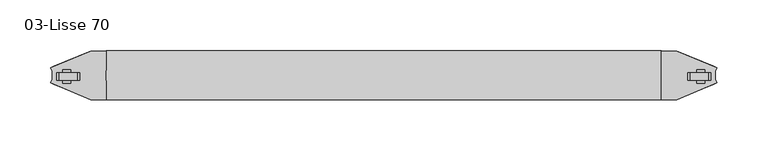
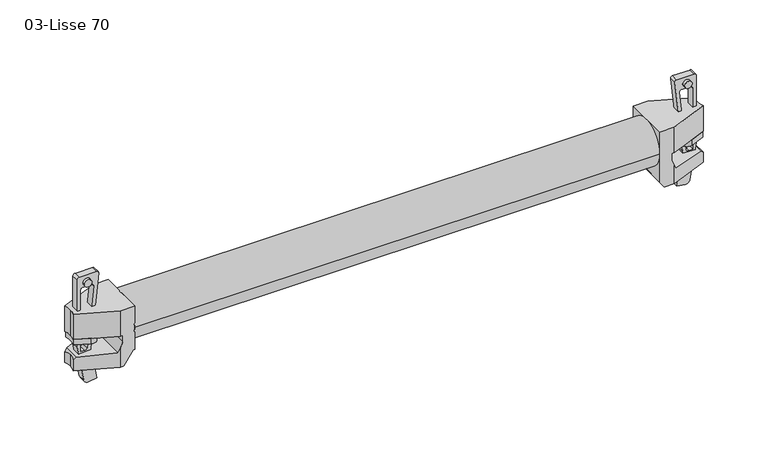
"""IFC4 building model written with IfcOpenShell, lengths in millimetres: proxy geometry, 03-Lisse 70 : JPA Lisse Galva."""

import ifcopenshell
import ifcopenshell.guid

model = None  # the IFC model being written
_history = None  # IfcOwnerHistory: only IFC2X3 demands one
_inside = {}  # id of a spatial element -> (the spatial element, [elements in it])
_under = {}  # id of a project, library or spatial element -> (it, [spatial elements below it])
_declared = {}  # id of a project -> (the project, [libraries it declares])
_typed = {}  # id of a type object -> (the type object, [elements of that type])
_made_of = {}  # id of a material, layer set ... -> (it, [elements and type objects made of it])


def new_model(schema):
    """Start an empty IFC model of exactly this schema.

    Asked for "IFC4X3", IfcOpenShell would pick the latest addendum, in which some entities
    have other attributes; the version numbers below select the first issue.
    IFC2X3 requires an IfcOwnerHistory on every rooted entity: one is made here for all.
    """
    global model, _history
    if schema == "IFC4X3":
        model = ifcopenshell.file(schema_version=(4, 3, 0, 0))
    else:
        model = ifcopenshell.file(schema=schema)
    _inside.clear()
    _under.clear()
    _declared.clear()
    _typed.clear()
    _made_of.clear()
    _history = None
    if model.schema == "IFC2X3":
        org = make("IfcOrganization", Name="unknown")
        user = make(
            "IfcPersonAndOrganization",
            ThePerson=make("IfcPerson", FamilyName="unknown"),
            TheOrganization=org,
        )
        app = make(
            "IfcApplication",
            ApplicationDeveloper=org,
            Version="unknown",
            ApplicationFullName="unknown",
            ApplicationIdentifier="unknown",
        )
        _history = make(
            "IfcOwnerHistory",
            OwningUser=user,
            OwningApplication=app,
            ChangeAction="ADDED",
            CreationDate=0,
        )
    return model


def make(cls, **values):
    """One entity of the class cls with the attributes given. An attribute that is None is left unset."""
    return model.create_entity(
        cls, **{name: value for name, value in values.items() if value is not None}
    )


def rooted(cls, **values):
    """An entity with a GlobalId (a new one), such as an element, a storey or a relation."""
    return make(cls, GlobalId=ifcopenshell.guid.new(), OwnerHistory=_history, **values)


def si_unit(unit_type, name, prefix=None):
    """IfcSIUnit, for example si_unit("LENGTHUNIT", "METRE", prefix="MILLI")."""
    return make("IfcSIUnit", UnitType=unit_type, Prefix=prefix, Name=name)


def assignment(units):
    """IfcUnitAssignment: the units of a project."""
    return None if units is None else make("IfcUnitAssignment", Units=units)


def point(xyz):
    """IfcCartesianPoint."""
    return None if xyz is None else make("IfcCartesianPoint", Coordinates=xyz)


def direction(xyz):
    """IfcDirection."""
    return None if xyz is None else make("IfcDirection", DirectionRatios=xyz)


def frame(location, z_axis=None, x_axis=None):
    """IfcAxis2Placement3D, a coordinate frame: its origin and axes. An axis left out is left unset."""
    return make(
        "IfcAxis2Placement3D",
        Location=point(location),
        Axis=direction(z_axis),
        RefDirection=direction(x_axis),
    )


def frame_2d(location, x_axis=None):
    """IfcAxis2Placement2D, a coordinate frame in the plane: its origin and x axis."""
    return make(
        "IfcAxis2Placement2D", Location=point(location), RefDirection=direction(x_axis)
    )


def origin():
    """The frame at (0, 0, 0) with its axes left unset."""
    return frame((0.0, 0.0, 0.0))


def place(relative_to, where):
    """IfcLocalPlacement: puts the frame where relative to a parent placement (None: the world)."""
    return make(
        "IfcLocalPlacement", PlacementRelTo=relative_to, RelativePlacement=where
    )


def context(
    kind, dimensions, precision=None, world=None, true_north=None, identifier=None
):
    """IfcGeometricRepresentationContext, for example the 3D "Model" context."""
    return make(
        "IfcGeometricRepresentationContext",
        ContextIdentifier=identifier,
        ContextType=kind,
        CoordinateSpaceDimension=dimensions,
        Precision=precision,
        WorldCoordinateSystem=world,
        TrueNorth=true_north,
    )


def project(units=None, contexts=None):
    """IfcProject with its units and contexts."""
    return rooted(
        "IfcProject",
        Name="project",
        RepresentationContexts=contexts,
        UnitsInContext=assignment(units),
    )


def spatial(cls, under=None, at=None, **own):
    """A site, building, storey or space (cls), placed at a placement, below another one or the project."""
    s = rooted(cls, ObjectPlacement=at, **own)
    if under is not None:
        _under.setdefault(under.id(), (under, []))[1].append(s)
    return s


def polyline(points):
    """IfcPolyline through the points."""
    return make("IfcPolyline", Points=[point(p) for p in points])


def circle_curve(where, radius):
    """IfcCircle in the frame where."""
    return make("IfcCircle", Position=where, Radius=radius)


def ellipse_curve(where, semi_axis1, semi_axis2):
    """IfcEllipse in the frame where."""
    return make(
        "IfcEllipse", Position=where, SemiAxis1=semi_axis1, SemiAxis2=semi_axis2
    )


def trimmed(basis, trim1, trim2, sense, master):
    """IfcTrimmedCurve: the piece of a basis curve between two trims."""
    return make(
        "IfcTrimmedCurve",
        BasisCurve=basis,
        Trim1=trim1,
        Trim2=trim2,
        SenseAgreement=sense,
        MasterRepresentation=master,
    )


def segment(curve, same_sense, transition):
    """IfcCompositeCurveSegment."""
    return make(
        "IfcCompositeCurveSegment",
        Transition=transition,
        SameSense=same_sense,
        ParentCurve=curve,
    )


def composite_curve(segments, self_intersect=None):
    """IfcCompositeCurve: segments joined end to end."""
    return make("IfcCompositeCurve", Segments=segments, SelfIntersect=self_intersect)


def outline(outer, holes=None, kind="AREA"):
    """IfcArbitraryClosedProfileDef: a profile drawn as a closed curve; with holes, ...WithVoids."""
    if holes is None:
        return make("IfcArbitraryClosedProfileDef", ProfileType=kind, OuterCurve=outer)
    return make(
        "IfcArbitraryProfileDefWithVoids",
        ProfileType=kind,
        OuterCurve=outer,
        InnerCurves=holes,
    )


def extrude(swept, where, along, depth):
    """IfcExtrudedAreaSolid: the profile swept, set in the frame where, extruded along a direction by depth."""
    return make(
        "IfcExtrudedAreaSolid",
        SweptArea=swept,
        Position=where,
        ExtrudedDirection=direction(along),
        Depth=depth,
    )


def shape(context_of_items, identifier, shape_type, items):
    """IfcShapeRepresentation: the items that make up one representation, for example the "Body"."""
    return make(
        "IfcShapeRepresentation",
        ContextOfItems=context_of_items,
        RepresentationIdentifier=identifier,
        RepresentationType=shape_type,
        Items=items,
    )


def source(mapping_origin, context_of_items, identifier, shape_type, items):
    """IfcRepresentationMap: a shape defined once, which mapped items show again and again."""
    return make(
        "IfcRepresentationMap",
        MappingOrigin=mapping_origin,
        MappedRepresentation=shape(context_of_items, identifier, shape_type, items),
    )


def transform(
    local_origin,
    x_axis=None,
    y_axis=None,
    z_axis=None,
    scale=None,
    scale2=None,
    scale3=None,
    uniform=True,
):
    """IfcCartesianTransformationOperator3D, or its non-uniform kind. x_axis, y_axis, z_axis: its Axis1, 2, 3."""
    if uniform:
        return make(
            "IfcCartesianTransformationOperator3D",
            Axis1=direction(x_axis),
            Axis2=direction(y_axis),
            LocalOrigin=point(local_origin),
            Scale=scale,
            Axis3=direction(z_axis),
        )
    return make(
        "IfcCartesianTransformationOperator3DnonUniform",
        Axis1=direction(x_axis),
        Axis2=direction(y_axis),
        LocalOrigin=point(local_origin),
        Scale=scale,
        Axis3=direction(z_axis),
        Scale2=scale2,
        Scale3=scale3,
    )


def mapped(mapping_source, mapping_target):
    """IfcMappedItem: shows the shape of a source again, moved by a transform."""
    return make(
        "IfcMappedItem", MappingSource=mapping_source, MappingTarget=mapping_target
    )


def made_of(thing, what):
    """Note that an element or type object is made of a material, layer set ...; save() writes the relation."""
    if what is not None:
        _made_of.setdefault(what.id(), (what, []))[1].append(thing)
    return thing


def element(
    cls,
    number,
    at=None,
    inside=None,
    cuts=None,
    type_object=None,
    material=None,
    context=None,
    identifier="Body",
    shape_type=None,
    held_by="IfcProductDefinitionShape",
    body=None,
    shapes=None,
    **own,
):
    """One element of the class cls, such as IfcWall. Its Tag is "e" and its number.

    at: its placement. inside: the storey or other place that contains it. cuts: it is an
    opening in that element (IfcRelVoidsElement). A single representation is given by context,
    identifier, shape_type and body (its items); several are given by shapes. held_by: the class
    of the entity that holds the representations. save() writes the other relations.
    """
    e = rooted(cls, Tag="e%d" % number, ObjectPlacement=at, **own)
    if body is not None:
        shapes = [shape(context, identifier, shape_type, body)]
    if shapes is not None:
        e.Representation = make(held_by, Representations=shapes)
    if inside is not None:
        _inside.setdefault(inside.id(), (inside, []))[1].append(e)
    if cuts is not None:
        rooted(
            "IfcRelVoidsElement", RelatingBuildingElement=cuts, RelatedOpeningElement=e
        )
    if type_object is not None:
        _typed.setdefault(type_object.id(), (type_object, []))[1].append(e)
    return made_of(e, material)


def aggregate(whole, parts):
    """IfcRelAggregates: a whole, such as a stair, and the parts it consists of."""
    return rooted("IfcRelAggregates", RelatingObject=whole, RelatedObjects=parts)


def save(model, path):
    """Write the relations noted so far, then the file.

    IfcRelAggregates (storeys below a building ...), IfcRelContainedInSpatialStructure (elements
    in a storey), IfcRelDefinesByType, IfcRelAssociatesMaterial and IfcRelDeclares: one each for
    every whole, place, type object, material and project.
    """
    for whole, parts in _under.values():
        aggregate(whole, parts)
    for where, things in _inside.values():
        rooted(
            "IfcRelContainedInSpatialStructure",
            RelatedElements=things,
            RelatingStructure=where,
        )
    for kind, things in _typed.values():
        rooted("IfcRelDefinesByType", RelatedObjects=things, RelatingType=kind)
    for what, things in _made_of.values():
        rooted("IfcRelAssociatesMaterial", RelatedObjects=things, RelatingMaterial=what)
    for by, libraries in _declared.values():
        rooted("IfcRelDeclares", RelatingContext=by, RelatedDefinitions=libraries)
    model.write(path)


def plane_surface(at):
    """IfcPlane: the flat surface through the origin of the frame at, square to its z axis."""
    return make("IfcPlane", Position=at)


def revolved_surface(curve, axis_point, axis_direction):
    """IfcSurfaceOfRevolution: the curve turned about the line through axis_point along axis_direction."""
    return make(
        "IfcSurfaceOfRevolution",
        SweptCurve=make("IfcArbitraryOpenProfileDef", ProfileType="CURVE", Curve=curve),
        AxisPosition=make("IfcAxis1Placement", Location=point(axis_point), Axis=direction(axis_direction)),
    )


def advanced_brep(points, edges, surfaces, faces):
    """IfcAdvancedBrep: a solid bounded by faces that lie on surfaces and meet in shared edges.

    An edge is (start, end): straight between two places in points (the first is 0);
    or (start, end, curve); or (start, end, curve, False) where it runs against its curve.
    A face is (place in surfaces, loops), or (place, loops, False) where it looks against
    its surface's normal. A loop lists edges by number (the first is 1), with a minus sign
    where the edge is run from its end to its start. The first loop is the outer one.
    """
    corners = [point(p) for p in points]
    vertices = [make("IfcVertexPoint", VertexGeometry=c) for c in corners]
    made = []
    for start, end, *more in edges:
        made.append(
            make(
                "IfcEdgeCurve",
                EdgeStart=vertices[start],
                EdgeEnd=vertices[end],
                EdgeGeometry=more[0] if more else make("IfcPolyline", Points=[corners[start], corners[end]]),
                SameSense=more[1] if len(more) > 1 else True,
            )
        )
    hull = []
    for where, loops, *sense in faces:
        bounds = []
        for j, loop in enumerate(loops):
            ring = [make("IfcOrientedEdge", EdgeElement=made[abs(k) - 1], Orientation=k > 0) for k in loop]
            bounds.append(
                make(
                    "IfcFaceOuterBound" if j == 0 else "IfcFaceBound",
                    Bound=make("IfcEdgeLoop", EdgeList=ring),
                    Orientation=True,
                )
            )
        hull.append(make("IfcAdvancedFace", Bounds=bounds, FaceSurface=surfaces[where], SameSense=sense[0] if sense else True))
    return make("IfcAdvancedBrep", Outer=make("IfcClosedShell", CfsFaces=hull))


def proxy_03_lisse_70_0da8a22d(model_context):
    return source(origin(), model_context, "Body", "SolidModel", [
        extrude(outline(composite_curve([segment(polyline([(676.4983474, -7.5675811), (662.0618616, -13.548703)]), True, "CONTINUOUS"), segment(trimmed(circle_curve(frame_2d((659.7603834, -8.0028606)), 6.0044293), [point((662.0618616, -13.548703))], [point((653.8691569, -9.163301))], False, "CARTESIAN"), True, "CONTINUOUS"), segment(trimmed(circle_curve(frame_2d((699.3720464, -0.200245)), 46.3772501), [point((653.8691569, -9.163301))], [point((653.2356282, -4.92044))], False, "CARTESIAN"), True, "CONTINUOUS"), segment(polyline([(653.2356282, -4.92044), (656.1589194, -4.92044), (660.0141949, -4.92044), (667.5604701, -4.92044), (671.4004701, -4.92044), (671.4004701, 2.57956), (667.5604701, 2.57956), (660.0141949, 2.57956), (656.1589194, 2.57956), (653.0781806, 2.57956)]), True, "CONTINUOUS"), segment(trimmed(circle_curve(frame_2d((699.3720464, -0.200245)), 46.3772501), [point((653.0781806, 2.57956))], [point((653.8691569, 8.762811))], False, "CARTESIAN"), True, "CONTINUOUS"), segment(trimmed(circle_curve(frame_2d((659.7627179, 7.6019107)), 6.0068087), [point((653.8691569, 8.762811))], [point((662.0618616, 13.151297))], False, "CARTESIAN"), True, "CONTINUOUS"), segment(polyline([(662.0618616, 13.151297), (676.4992197, 7.1698137)]), True, "CONTINUOUS"), segment(trimmed(circle_curve(frame_2d((699.4971486, -0.200245)), 24.15), [point((676.4992197, 7.1698137))], [point((676.4983474, -7.5675811))], True, "CARTESIAN"), True, "CONTINUOUS")], self_intersect=False)), frame((0.0, 0.0, -40.1039294), z_axis=(0.0, 0.0, 1.0), x_axis=(1.0, 0.0, 0.0)), (0.0, 0.0, 1.0), 6.0),
        extrude(outline(composite_curve([segment(trimmed(circle_curve(frame_2d((699.4971486, -0.200245)), 24.15), [point((676.4992197, 7.1698137))], [point((676.4983474, -7.5675811))], True, "CARTESIAN"), True, "CONTINUOUS"), segment(polyline([(676.4983474, -7.5675811), (672.0680073, -9.4030973), (672.0680073, 9.0056913), (676.4992197, 7.1698137)]), True, "CONTINUOUS")], self_intersect=False)), frame((0.0, 0.0, -40.1039294), z_axis=(0.0, 0.0, 1.0), x_axis=(1.0, 0.0, 0.0)), (0.0, 0.0, 1.0), 6.0),
        extrude(outline(composite_curve([segment(trimmed(circle_curve(frame_2d((0.5020711, -0.200245)), 24.15), [point((23.5008723, -7.5675811))], [point((23.5, 7.1698137))], True, "CARTESIAN"), True, "CONTINUOUS"), segment(polyline([(23.5, 7.1698137), (37.9373581, 13.151297)]), True, "CONTINUOUS"), segment(trimmed(circle_curve(frame_2d((40.2365018, 7.6019107)), 6.0068087), [point((37.9373581, 13.151297))], [point((46.1300628, 8.762811))], False, "CARTESIAN"), True, "CONTINUOUS"), segment(trimmed(circle_curve(frame_2d((0.6271733, -0.200245)), 46.3772501), [point((46.1300628, 8.762811))], [point((46.9210391, 2.57956))], False, "CARTESIAN"), True, "CONTINUOUS"), segment(polyline([(46.9210391, 2.57956), (43.8403003, 2.57956), (39.9850248, 2.57956), (32.4387496, 2.57956), (28.5987496, 2.57956), (28.5987496, -4.92044), (32.4387496, -4.92044), (39.9850248, -4.92044), (43.8403003, -4.92044), (46.7635915, -4.92044)]), True, "CONTINUOUS"), segment(trimmed(circle_curve(frame_2d((0.6271733, -0.200245)), 46.3772501), [point((46.7635915, -4.92044))], [point((46.1300628, -9.163301))], False, "CARTESIAN"), True, "CONTINUOUS"), segment(trimmed(circle_curve(frame_2d((40.2388364, -8.0028606)), 6.0044293), [point((46.1300628, -9.163301))], [point((37.9373581, -13.548703))], False, "CARTESIAN"), True, "CONTINUOUS"), segment(polyline([(37.9373581, -13.548703), (23.5008723, -7.5675811)]), True, "CONTINUOUS")], self_intersect=False)), frame((0.0, 0.0, -40.1039294), z_axis=(0.0, 0.0, 1.0), x_axis=(1.0, 0.0, 0.0)), (0.0, 0.0, 1.0), 6.0),
        extrude(outline(composite_curve([segment(trimmed(circle_curve(frame_2d((27.8953091, 30.7594271)), 2.1606775), [point((30.0559866, 30.7594271))], [point((27.8953091, 28.5987496))], False, "CARTESIAN"), True, "CONTINUOUS"), segment(polyline([(27.8953091, 28.5987496), (-45.9588727, 28.5987496), (-84.0602229, 35.3170456)]), True, "CONTINUOUS"), segment(trimmed(circle_curve(frame_2d((-83.2111425, 40.1324197)), 4.889659), [point((-84.0602229, 35.3170456))], [point((-88.1008015, 40.1324197))], False, "CARTESIAN"), True, "CONTINUOUS"), segment(polyline([(-88.1008015, 40.1324197), (-86.5617303, 48.860926), (-51.3520566, 42.6525106), (27.7368379, 50.9650884)]), True, "CONTINUOUS"), segment(trimmed(circle_curve(frame_2d((27.9586511, 48.8546768)), 2.1220363), [point((27.7368379, 50.9650884))], [point((30.0559866, 49.1775107))], False, "CARTESIAN"), True, "CONTINUOUS"), segment(polyline([(30.0559866, 49.1775107), (30.0559866, 30.7594271)]), True, "CONTINUOUS")], self_intersect=False), holes=[composite_curve([segment(trimmed(circle_curve(frame_2d((15.3935931, 34.6011136)), 2.162364), [point((15.3935931, 32.4387496))], [point((17.5559571, 34.6011136))], True, "CARTESIAN"), True, "CONTINUOUS"), segment(polyline([(17.5559571, 34.6011136), (17.5559571, 43.6409656)]), True, "CONTINUOUS"), segment(trimmed(circle_curve(frame_2d((15.3851783, 43.6409656)), 2.1707788), [point((17.5559571, 43.6409656))], [point((15.3851783, 45.8117443))], True, "CARTESIAN"), True, "CONTINUOUS"), segment(polyline([(15.3851783, 45.8117443), (-50.2786063, 38.9102025)]), True, "CONTINUOUS"), segment(trimmed(circle_curve(frame_2d((-49.0143511, 36.4289619)), 2.7847613), [point((-50.2786063, 38.9102025))], [point((-51.795296, 36.2832188))], True, "CARTESIAN"), True, "CONTINUOUS"), segment(polyline([(-51.795296, 36.2832188), (-51.5938159, 32.4387496), (15.3935931, 32.4387496)]), True, "CONTINUOUS")], self_intersect=False), composite_curve([segment(trimmed(circle_curve(frame_2d((22.709669, 38.4492461)), 3.8584192), [point((22.709669, 34.5908269))], [point((22.709669, 42.3076652))], True, "CARTESIAN"), True, "CONTINUOUS"), segment(trimmed(circle_curve(frame_2d((22.709669, 38.4492461)), 3.8584192), [point((22.709669, 42.3076652))], [point((22.709669, 34.5908269))], True, "CARTESIAN"), True, "CONTINUOUS")], self_intersect=False)]), frame((0.0, -4.92044, 0.0), z_axis=(0.0, 1.0, 0.0), x_axis=(0.0, 0.0, 1.0)), (0.0, 0.0, 1.0), 7.5),
        advanced_brep(
        [(637.8196195, 23.8029452, -6.1039294), (622.6383474, 23.8029452, -6.1039294), (622.6383474, -23.8029452, -6.1039294), (637.8196195, -23.8029452, -6.1039294), (677.1084401, -7.5511063, -6.1039294), (675.6708295, 0.0, -6.1039294), (677.1084401, 7.5511063, -6.1039294), (637.8196195, 23.8029452, -68.1039294), (677.1084401, 7.5511063, -68.1039294), (675.6708295, 0.0, -68.1039294), (677.1084401, -7.5511063, -68.1039294), (637.8196195, -23.8029452, -68.1039294), (627.4512529, -23.8029452, -68.1039294), (627.4512529, 23.8029452, -68.1039294), (677.1084401, 7.5511063, -34.1039294), (637.8196195, 23.8029452, -34.1039294), (637.8196195, 23.8029452, -47.8537512), (639.5073942, 23.1047964, -52.1184527), (674.33828, 8.6969843, -53.943862), (677.1084401, 7.5511063, -56.7140221), (675.6708295, 0.0, -34.1039294), (675.6708295, 0.0, -55.2764116), (677.1084401, -7.5511063, -34.1039294), (677.1084401, -7.5511063, -56.7140221), (637.8196195, -23.8029452, -34.1039294), (674.33828, -8.6969843, -53.943862), (639.5073942, -23.1047964, -52.1184527), (637.8196195, -23.8029452, -47.8537512), (622.6383474, -23.8029452, -61.230388), (635.1459218, -23.8029452, -41.0978005), (635.1459218, -23.8029452, -34.1039294), (622.6383474, 23.8029452, -61.230388), (635.1459218, 23.8029452, -34.1039294), (635.1459218, 23.8029452, -41.0978005)],
        [
            (0, 1),
            (1, 2),
            (2, 3),
            (3, 4),
            (4, 5, circle_curve(frame((695.481966, -0.1406769, -6.1039294), z_axis=(0.0, 0.0, -1.0), x_axis=(-1.0, 0.0, 0.0)), 19.8116359)),
            (5, 6, circle_curve(frame((695.481966, 0.1406769, -6.1039294), z_axis=(0.0, 0.0, -1.0), x_axis=(-1.0, 0.0, 0.0)), 19.8116359)),
            (6, 0),
            (7, 8),
            (8, 9, circle_curve(frame((695.481966, 0.1406769, -68.1039294), z_axis=(0.0, 0.0, 1.0), x_axis=(-1.0, 0.0, 0.0)), 19.8116359)),
            (9, 10, circle_curve(frame((695.481966, -0.1406769, -68.1039294), z_axis=(0.0, 0.0, 1.0), x_axis=(-1.0, 0.0, 0.0)), 19.8116359)),
            (10, 11),
            (11, 12),
            (12, 13),
            (13, 7),
            (6, 14),
            (14, 15),
            (15, 0),
            (7, 16),
            (16, 17),
            (17, 18),
            (18, 19),
            (19, 8),
            (5, 20),
            (20, 14, circle_curve(frame((695.481966, 0.1406769, -34.1039294), z_axis=(0.0, 0.0, -1.0), x_axis=(-1.0, 0.0, 0.0)), 19.8116359)),
            (19, 21, ellipse_curve(frame((695.481966, 0.1406769, -75.087548), z_axis=(0.7071067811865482, 0.0, 0.7071067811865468), x_axis=(0.7071067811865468, 0.0, -0.7071067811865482)), 28.0178842, 19.8116359)),
            (21, 9),
            (4, 22),
            (22, 20, circle_curve(frame((695.481966, -0.1406769, -34.1039294), z_axis=(0.0, 0.0, -1.0), x_axis=(-1.0, 0.0, 0.0)), 19.8116359)),
            (21, 23, ellipse_curve(frame((695.481966, -0.1406769, -75.087548), z_axis=(0.7071067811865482, 0.0, 0.7071067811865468), x_axis=(0.7071067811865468, 0.0, -0.7071067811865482)), 28.0178842, 19.8116359)),
            (23, 10),
            (3, 24),
            (24, 22),
            (23, 25),
            (25, 26),
            (26, 27),
            (27, 11),
            (2, 28),
            (28, 12),
            (27, 29),
            (29, 30),
            (30, 24),
            (1, 31),
            (31, 28),
            (15, 32),
            (32, 33),
            (33, 16),
            (13, 31),
            (32, 30),
            (29, 33),
            (26, 17),
            (25, 18),
        ],
        [
            plane_surface(frame((622.6383474, 23.8029452, -6.1039294), z_axis=(0.0, 0.0, 1.0), x_axis=(-1.0, 0.0, 0.0))),
            plane_surface(frame((622.6383474, 23.8029452, -68.1039294), z_axis=(0.0, 0.0, -1.0), x_axis=(1.0, 0.0, 0.0))),
            plane_surface(frame((677.1084401, 7.5511063, -6.1039294), z_axis=(0.38223925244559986, 0.924063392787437, 0.0), x_axis=(0.0, 0.0, -1.0))),
            revolved_surface(polyline([(675.6703301, 0.1406769, -34.1039294), (675.6703301, 0.1406769, -6.103929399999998)]), (695.481966, 0.1406769, -68.1039294), (0.0, 0.0, -1.0)),
            revolved_surface(polyline([(675.6703301, 0.1406769, -94.89918391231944), (675.6703301, 0.1406769, -55.27591208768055)]), (695.481966, 0.1406769, -68.1039294), (0.0, 0.0, -1.0)),
            revolved_surface(polyline([(675.6703301, -0.1406769, -34.1039294), (675.6703301, -0.1406769, -6.103929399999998)]), (695.481966, -0.1406769, -68.1039294), (0.0, 0.0, -1.0)),
            revolved_surface(polyline([(675.6703301, -0.1406769, -94.89918391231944), (675.6703301, -0.1406769, -55.27591208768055)]), (695.481966, -0.1406769, -68.1039294), (0.0, 0.0, -1.0)),
            plane_surface(frame((637.8196195, -23.8029452, -6.1039294), z_axis=(0.3822392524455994, -0.9240633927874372, 0.0), x_axis=(0.0, 0.0, -1.0))),
            plane_surface(frame((622.6383474, -23.8029452, -6.1039294), z_axis=(0.0, -1.0, 0.0), x_axis=(0.0, 0.0, -1.0))),
            plane_surface(frame((622.6383474, 23.8029452, -6.1039294), z_axis=(-1.0, 0.0, 0.0), x_axis=(0.0, 0.0, -1.0))),
            plane_surface(frame((637.8196195, 23.8029452, -6.1039294), z_axis=(0.0, 1.0, 0.0), x_axis=(0.0, 0.0, -1.0))),
            plane_surface(frame((629.1198761, -49.3768281, -70.4869703), z_axis=(-0.8191520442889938, 0.0, -0.5735764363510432), x_axis=(0.0, 1.0, 0.0))),
            plane_surface(frame((635.1459218, -49.3768281, -34.1039294), z_axis=(1.0, 0.0, 0.0), x_axis=(0.0, 1.0, 0.0))),
            plane_surface(frame((635.1459218, -49.3768281, -41.0978005), z_axis=(0.9298317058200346, 0.0, 0.3679850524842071), x_axis=(0.0, 1.0, 0.0))),
            plane_surface(frame((639.5073942, -49.3768281, -52.1184527), z_axis=(0.05233595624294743, 0.0, 0.9986295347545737), x_axis=(0.0, 1.0, 0.0))),
            plane_surface(frame((674.33828, -49.3768281, -53.943862), z_axis=(0.7071067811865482, 0.0, 0.7071067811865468), x_axis=(0.0, 1.0, 0.0))),
            plane_surface(frame((678.5680073, -49.3768281, -34.1039294), z_axis=(0.0, 0.0, -1.0), x_axis=(0.0, 1.0, 0.0))),
        ],
        [
            (0, [[1, 2, 3, 4, 5, 6, 7]]),
            (1, [[8, 9, 10, 11, 12, 13, 14]]),
            (2, [[-7, 15, 16, 17]]),
            (2, [[-8, 18, 19, 20, 21, 22]]),
            (3, [[-6, 23, 24, -15]]),
            (4, [[-9, -22, 25, 26]]),
            (5, [[-5, 27, 28, -23]]),
            (6, [[-10, -26, 29, 30]]),
            (7, [[-4, 31, 32, -27]]),
            (7, [[-11, -30, 33, 34, 35, 36]]),
            (8, [[-3, 37, 38, -12, -36, 39, 40, 41, -31]]),
            (9, [[-2, 42, 43, -37]]),
            (10, [[-1, -17, 44, 45, 46, -18, -14, 47, -42]]),
            (11, [[-13, -38, -43, -47]]),
            (12, [[48, -40, 49, -45]]),
            (13, [[-49, -39, -35, 50, -19, -46]]),
            (14, [[-50, -34, 51, -20]]),
            (15, [[-51, -33, -29, -25, -21]]),
            (16, [[-48, -44, -16, -24, -28, -32, -41]]),
        ],
    ),
        extrude(outline(composite_curve([segment(trimmed(circle_curve(frame_2d((22.709669, 661.5499737)), 3.8584192), [point((22.709669, 657.6915545))], [point((22.709669, 665.4083928))], False, "CARTESIAN"), True, "CONTINUOUS"), segment(trimmed(circle_curve(frame_2d((22.709669, 661.5499737)), 3.8584192), [point((22.709669, 665.4083928))], [point((22.709669, 657.6915545))], False, "CARTESIAN"), True, "CONTINUOUS")], self_intersect=False)), frame((0.0, -7.92044, 0.0), z_axis=(0.0, 1.0, 0.0), x_axis=(0.0, 0.0, 1.0)), (0.0, 0.0, 1.0), 13.5),
        extrude(outline(composite_curve([segment(polyline([(29.9424367, 669.2198298), (29.9424367, 650.8017462)]), True, "CONTINUOUS"), segment(trimmed(circle_curve(frame_2d((27.8451011, 651.1245801)), 2.1220363), [point((29.9424367, 650.8017462))], [point((27.6232879, 649.0141685))], False, "CARTESIAN"), True, "CONTINUOUS"), segment(polyline([(27.6232879, 649.0141685), (-51.4656066, 657.3267463), (-86.6752802, 651.1183308), (-88.2143514, 659.8468372)]), True, "CONTINUOUS"), segment(trimmed(circle_curve(frame_2d((-83.3246924, 659.8468372)), 4.889659), [point((-88.2143514, 659.8468372))], [point((-84.1737728, 664.6622113))], False, "CARTESIAN"), True, "CONTINUOUS"), segment(polyline([(-84.1737728, 664.6622113), (-46.0724226, 671.3805073), (27.7817592, 671.3805073)]), True, "CONTINUOUS"), segment(trimmed(circle_curve(frame_2d((27.7817592, 669.2198298)), 2.1606775), [point((27.7817592, 671.3805073))], [point((29.9424367, 669.2198298))], False, "CARTESIAN"), True, "CONTINUOUS")], self_intersect=False), holes=[composite_curve([segment(polyline([(15.2800431, 667.5405073), (-51.7073659, 667.5405073), (-51.908846, 663.6960381)]), True, "CONTINUOUS"), segment(trimmed(circle_curve(frame_2d((-49.1279011, 663.550295)), 2.7847613), [point((-51.908846, 663.6960381))], [point((-50.3921562, 661.0690544))], True, "CARTESIAN"), True, "CONTINUOUS"), segment(polyline([(-50.3921562, 661.0690544), (15.2716284, 654.1675126)]), True, "CONTINUOUS"), segment(trimmed(circle_curve(frame_2d((15.2716284, 656.3382913)), 2.1707788), [point((15.2716284, 654.1675126))], [point((17.4424071, 656.3382913))], True, "CARTESIAN"), True, "CONTINUOUS"), segment(polyline([(17.4424071, 656.3382913), (17.4424071, 665.3781433)]), True, "CONTINUOUS"), segment(trimmed(circle_curve(frame_2d((15.2800431, 665.3781433)), 2.162364), [point((17.4424071, 665.3781433))], [point((15.2800431, 667.5405073))], True, "CARTESIAN"), True, "CONTINUOUS")], self_intersect=False), composite_curve([segment(trimmed(circle_curve(frame_2d((22.5961191, 661.5300108)), 3.8584192), [point((22.5961191, 665.38843))], [point((22.5961191, 657.6715917))], True, "CARTESIAN"), True, "CONTINUOUS"), segment(trimmed(circle_curve(frame_2d((22.5961191, 661.5300108)), 3.8584192), [point((22.5961191, 657.6715917))], [point((22.5961191, 665.38843))], True, "CARTESIAN"), True, "CONTINUOUS")], self_intersect=False)]), frame((0.0, -4.92044, 0.0), z_axis=(0.0, 1.0, 0.0), x_axis=(0.0, 0.0, 1.0)), (0.0, 0.0, 1.0), 7.5),
        extrude(outline(composite_curve([segment(trimmed(circle_curve(frame_2d((0.0, -29.9068746)), 23.9423125), [point((-23.9423125, -29.9068746))], [point((23.9423125, -29.9068746))], False, "CARTESIAN"), True, "CONTINUOUS"), segment(trimmed(circle_curve(frame_2d((0.0, -29.9068746)), 23.9423125), [point((23.9423125, -29.9068746))], [point((-23.9423125, -29.9068746))], False, "CARTESIAN"), True, "CONTINUOUS")], self_intersect=False)), frame((77.3608723, 0.0, 0.0), z_axis=(1.0, 0.0, 0.0), x_axis=(0.0, 1.0, 0.0)), (0.0, 0.0, 1.0), 545.2774751),
        extrude(outline(composite_curve([segment(trimmed(circle_curve(frame_2d((22.709669, 38.4492461)), 3.8584192), [point((22.709669, 42.3076652))], [point((22.709669, 34.5908269))], False, "CARTESIAN"), True, "CONTINUOUS"), segment(trimmed(circle_curve(frame_2d((22.709669, 38.4492461)), 3.8584192), [point((22.709669, 34.5908269))], [point((22.709669, 42.3076652))], False, "CARTESIAN"), True, "CONTINUOUS")], self_intersect=False)), frame((0.0, -7.92044, 0.0), z_axis=(0.0, 1.0, 0.0), x_axis=(0.0, 0.0, 1.0)), (0.0, 0.0, 1.0), 13.5),
        advanced_brep(
        [(62.1796002, 23.8029452, -6.1039294), (22.8907796, 7.5511063, -6.1039294), (24.3283902, 0.0, -6.1039294), (22.8907796, -7.5511063, -6.1039294), (62.1796002, -23.8029452, -6.1039294), (77.3608723, -23.8029452, -6.1039294), (77.3608723, 23.8029452, -6.1039294), (62.1796002, -23.8029452, -68.1039294), (22.8907796, -7.5511063, -68.1039294), (24.3283902, 0.0, -68.1039294), (22.8907796, 7.5511063, -68.1039294), (62.1796002, 23.8029452, -68.1039294), (66.0479668, 23.8029452, -68.1039294), (66.0479668, -23.8029452, -68.1039294), (62.1796002, 23.8029452, -34.1039294), (22.8907796, 7.5511063, -34.1039294), (22.8907796, 7.5511063, -56.7140221), (25.6609397, 8.6969843, -53.943862), (60.4918255, 23.1047964, -52.1184527), (62.1796002, 23.8029452, -47.8537512), (24.3283902, 0.0, -34.1039294), (24.3283902, 0.0, -55.2764116), (22.8907796, -7.5511063, -34.1039294), (22.8907796, -7.5511063, -56.7140221), (62.1796002, -23.8029452, -34.1039294), (62.1796002, -23.8029452, -47.8537512), (60.4918255, -23.1047964, -52.1184527), (25.6609397, -8.6969843, -53.943862), (64.8532979, -23.8029452, -34.1039294), (64.8532979, -23.8029452, -41.0978005), (75.8656815, -23.8029452, -54.0827798), (77.3608723, -23.8029452, -54.0827798), (77.3608723, 23.8029452, -54.0827798), (75.8656815, 23.8029452, -54.0827798), (64.8532979, 23.8029452, -41.0978005), (64.8532979, 23.8029452, -34.1039294)],
        [
            (0, 1),
            (1, 2, circle_curve(frame((4.5172537, 0.1406769, -6.1039294), z_axis=(0.0, 0.0, -1.0), x_axis=(1.0, 0.0, 0.0)), 19.8116359)),
            (2, 3, circle_curve(frame((4.5172537, -0.1406769, -6.1039294), z_axis=(0.0, 0.0, -1.0), x_axis=(1.0, 0.0, 0.0)), 19.8116359)),
            (3, 4),
            (4, 5),
            (5, 6),
            (6, 0),
            (7, 8),
            (8, 9, circle_curve(frame((4.5172537, -0.1406769, -68.1039294), z_axis=(0.0, 0.0, 1.0), x_axis=(1.0, 0.0, 0.0)), 19.8116359)),
            (9, 10, circle_curve(frame((4.5172537, 0.1406769, -68.1039294), z_axis=(0.0, 0.0, 1.0), x_axis=(1.0, 0.0, 0.0)), 19.8116359)),
            (10, 11),
            (11, 12),
            (12, 13),
            (13, 7),
            (0, 14),
            (14, 15),
            (15, 1),
            (10, 16),
            (16, 17),
            (17, 18),
            (18, 19),
            (19, 11),
            (15, 20, circle_curve(frame((4.5172537, 0.1406769, -34.1039294), z_axis=(0.0, 0.0, -1.0), x_axis=(1.0, 0.0, 0.0)), 19.8116359)),
            (20, 2),
            (9, 21),
            (21, 16, ellipse_curve(frame((4.5172537, 0.1406769, -75.087548), z_axis=(-0.7071067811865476, 0.0, 0.7071067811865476), x_axis=(-0.7071067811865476, 0.0, -0.7071067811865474)), 28.0178842, 19.8116359)),
            (20, 22, circle_curve(frame((4.5172537, -0.1406769, -34.1039294), z_axis=(0.0, 0.0, -1.0), x_axis=(1.0, 0.0, 0.0)), 19.8116359)),
            (22, 3),
            (8, 23),
            (23, 21, ellipse_curve(frame((4.5172537, -0.1406769, -75.087548), z_axis=(-0.7071067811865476, 0.0, 0.7071067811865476), x_axis=(-0.7071067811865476, 0.0, -0.7071067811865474)), 28.0178842, 19.8116359)),
            (22, 24),
            (24, 4),
            (7, 25),
            (25, 26),
            (26, 27),
            (27, 23),
            (24, 28),
            (28, 29),
            (29, 25),
            (13, 30),
            (30, 31),
            (31, 5),
            (31, 32),
            (32, 6),
            (32, 33),
            (33, 12),
            (19, 34),
            (34, 35),
            (35, 14),
            (30, 33),
            (35, 28),
            (27, 17),
            (26, 18),
            (29, 34),
        ],
        [
            plane_surface(frame((64.4727058, 24.7514894, -6.1039294), z_axis=(0.0, 0.0, 1.0000000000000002), x_axis=(-0.9240633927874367, -0.38223925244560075, 0.0))),
            plane_surface(frame((64.4727058, 24.7514894, -68.1039294), z_axis=(0.0, 0.0, -1.0000000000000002), x_axis=(0.9240633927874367, 0.38223925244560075, 0.0))),
            plane_surface(frame((62.1796002, 23.8029452, -6.1039294), z_axis=(-0.38223925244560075, 0.9240633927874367, 0.0), x_axis=(0.0, 0.0, -1.0))),
            revolved_surface(polyline([(24.3288896, 0.1406769, -34.1039294), (24.3288896, 0.1406769, -6.103929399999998)]), (4.5172537, 0.1406769, -68.1039294), (0.0, 0.0, -1.0)),
            revolved_surface(polyline([(24.3288896, 0.1406769, -94.89918391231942), (24.3288896, 0.1406769, -55.275912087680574)]), (4.5172537, 0.1406769, -68.1039294), (0.0, 0.0, -1.0)),
            revolved_surface(polyline([(24.3288896, -0.1406769, -34.1039294), (24.3288896, -0.1406769, -6.103929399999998)]), (4.5172537, -0.1406769, -68.1039294), (0.0, 0.0, -1.0)),
            revolved_surface(polyline([(24.3288896, -0.1406769, -94.89918391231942), (24.3288896, -0.1406769, -55.275912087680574)]), (4.5172537, -0.1406769, -68.1039294), (0.0, 0.0, -1.0)),
            plane_surface(frame((22.8907796, -7.5511063, -6.1039294), z_axis=(-0.3822392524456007, -0.9240633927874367, 0.0), x_axis=(0.0, 0.0, -1.0))),
            plane_surface(frame((62.1796002, -23.8029452, -6.1039294), z_axis=(0.0, -1.0, 0.0), x_axis=(0.0, 0.0, -1.0))),
            plane_surface(frame((77.3608723, -23.8029452, -6.1039294), z_axis=(1.0, 0.0, 0.0), x_axis=(0.0, 0.0, -1.0))),
            plane_surface(frame((77.3608723, 23.8029452, -6.1039294), z_axis=(0.0, 1.0, 0.0), x_axis=(0.0, 0.0, -1.0))),
            plane_surface(frame((79.3793436, -49.3768281, -54.0827798), z_axis=(0.0, 0.0, -1.0), x_axis=(0.0, 1.0, 0.0))),
            plane_surface(frame((75.8656815, -49.3768281, -54.0827798), z_axis=(0.8191520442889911, 0.0, -0.5735764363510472), x_axis=(0.0, 1.0, 0.0))),
            plane_surface(frame((64.8532979, -49.3768281, -34.1039294), z_axis=(0.0, 0.0, -1.0), x_axis=(0.0, 1.0, 0.0))),
            plane_surface(frame((21.4312124, -49.3768281, -58.1735894), z_axis=(-0.7071067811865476, 0.0, 0.7071067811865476), x_axis=(0.0, 1.0, 0.0))),
            plane_surface(frame((25.6609397, -49.3768281, -53.943862), z_axis=(-0.05233595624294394, 0.0, 0.9986295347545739), x_axis=(0.0, 1.0, 0.0))),
            plane_surface(frame((60.4918255, -49.3768281, -52.1184527), z_axis=(-0.9298317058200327, 0.0, 0.36798505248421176), x_axis=(0.0, 1.0, 0.0))),
            plane_surface(frame((64.8532979, -49.3768281, -41.0978005), z_axis=(-1.0, 0.0, 0.0), x_axis=(0.0, 1.0, 0.0))),
        ],
        [
            (0, [[1, 2, 3, 4, 5, 6, 7]]),
            (1, [[8, 9, 10, 11, 12, 13, 14]]),
            (2, [[-1, 15, 16, 17]]),
            (2, [[-11, 18, 19, 20, 21, 22]]),
            (3, [[-2, -17, 23, 24]]),
            (4, [[-10, 25, 26, -18]]),
            (5, [[-3, -24, 27, 28]]),
            (6, [[-9, 29, 30, -25]]),
            (7, [[-4, -28, 31, 32]]),
            (7, [[-8, 33, 34, 35, 36, -29]]),
            (8, [[-5, -32, 37, 38, 39, -33, -14, 40, 41, 42]]),
            (9, [[-6, -42, 43, 44]]),
            (10, [[-7, -44, 45, 46, -12, -22, 47, 48, 49, -15]]),
            (11, [[50, -45, -43, -41]]),
            (12, [[-50, -40, -13, -46]]),
            (13, [[51, -37, -31, -27, -23, -16, -49]]),
            (14, [[52, -19, -26, -30, -36]]),
            (15, [[-52, -35, 53, -20]]),
            (16, [[-53, -34, -39, 54, -47, -21]]),
            (17, [[-51, -48, -54, -38]]),
        ],
    ),
    ])


if __name__ == "__main__":
    model = new_model("IFC4")
    model_context = context("Model", 3, world=origin())
    ifc_project = project(units=[si_unit("LENGTHUNIT", "METRE", prefix="MILLI")], contexts=[model_context])
    site = spatial("IfcSite", under=ifc_project)
    building = spatial("IfcBuilding", under=site)
    placement = place(None, origin())
    proxy_03_lisse_70_shape = proxy_03_lisse_70_0da8a22d(model_context)
    element("IfcBuildingElementProxy", 1, Name="03-Lisse 70 : JPA Lisse Galva", ObjectType="03-Lisse 70 : JPA Lisse Galva", at=placement, inside=building, context=model_context, shape_type="MappedRepresentation", body=[
        mapped(proxy_03_lisse_70_shape, transform((0.0, 0.0, 0.0), x_axis=(1.0, 0.0, 0.0), y_axis=(0.0, 1.0, 0.0), z_axis=(0.0, 0.0, 1.0))),
    ])
    save(model, "model.ifc")
